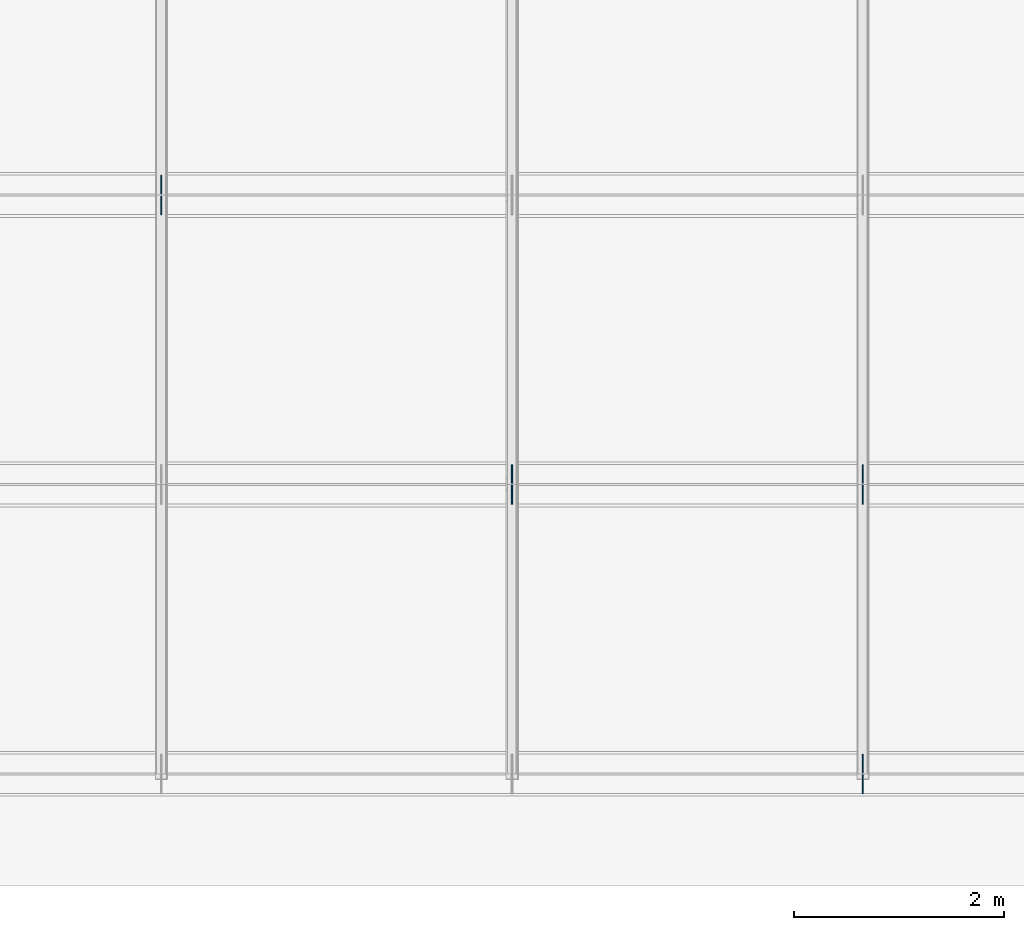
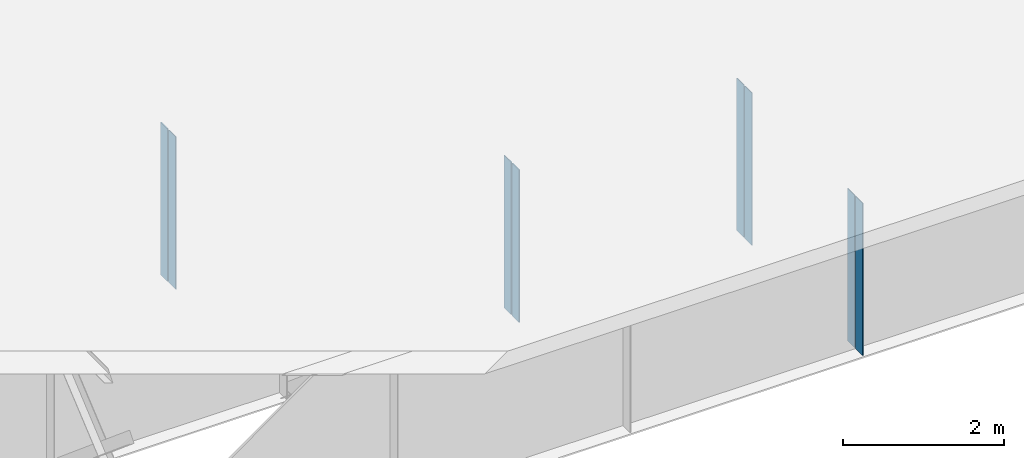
# One storey, part 8 of 13: 8 plates.
"""IFC4 building model written with IfcOpenShell, lengths in metres."""

from ifc_helpers import new_model, si_unit, frame, origin, origin_with_axes, origin_2d_with_axis, place, context, subcontext, project, spatial, rectangle, extrude, element, save


model = new_model("IFC4")

# Units and contexts
model_context = context("Model", 3, precision=1e-05, world=origin())
body_context = subcontext(model_context, "Body", "Model", "MODEL_VIEW")
ifc_project = project(units=[si_unit("LENGTHUNIT", "METRE"), si_unit("AREAUNIT", "SQUARE_METRE"), si_unit("VOLUMEUNIT", "CUBIC_METRE"), si_unit("PLANEANGLEUNIT", "RADIAN")], contexts=[model_context])

# Site, building, storey
site_placement = place(None, origin_with_axes())
site = spatial("IfcSite", under=ifc_project, at=site_placement, Name="Default Site")
building_placement = place(site_placement, origin_with_axes())
building = spatial("IfcBuilding", under=site, at=building_placement, Name="Bridge Structure")
storey_placement = place(building_placement, origin_with_axes())
storey = spatial("IfcBuildingStorey", under=building, at=storey_placement, Name="Superstructure")

# Plates
for number, where, z_axis, x_axis, name in (
    (1, (23.331, -4.02625, -1.155), (0.0, 0.0, 1.0), (1.0, 0.0, 0.0), "Intermediate Stiffener 1"),
    (2, (23.331, -4.22375, -1.155), (0.0, 0.0, 1.0), (1.0, 0.0, 0.0), "Intermediate Stiffener 1"),
    (3, (19.998, -1.27625, -1.155), (0.0, 0.0, 1.0), (1.0, 0.0, 0.0), "Intermediate Stiffener 2"),
    (4, (19.998, -1.4737500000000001, -1.155), (0.0, 0.0, 1.0), (1.0, 0.0, 0.0), "Intermediate Stiffener 2"),
    (5, (23.331, -1.27625, -1.155), (0.0, 0.0, 1.0), (1.0, 0.0, 0.0), "Intermediate Stiffener 2"),
    (6, (23.331, -1.4737500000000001, -1.155), (0.0, 0.0, 1.0), (1.0, 0.0, 0.0), "Intermediate Stiffener 2"),
    (7, (16.665, 1.4737500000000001, -1.155), (0.0, 0.0, 1.0), (1.0, 0.0, 0.0), "Intermediate Stiffener 3"),
    (8, (16.665, 1.27625, -1.155), (0.0, 0.0, 1.0), (1.0, 0.0, 0.0), "Intermediate Stiffener 3"),
):
    element("IfcPlate", number, at=place(storey_placement, frame(where, z_axis=z_axis, x_axis=x_axis)), inside=storey, Name=name, context=body_context, shape_type="SweptSolid", body=[
        extrude(rectangle(XDim=0.012, YDim=0.1775, at=origin_2d_with_axis()), origin_with_axes(), (0.0, 0.0, 1.0), 2.31),
    ])

save(model, "model.ifc")
